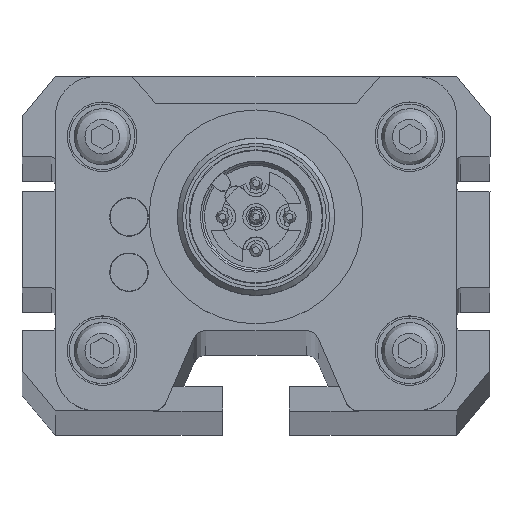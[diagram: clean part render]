
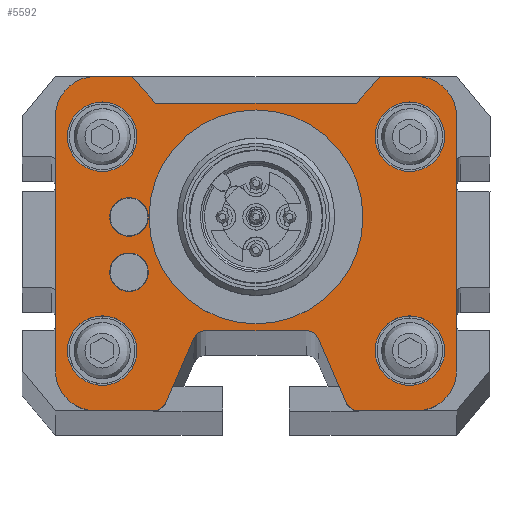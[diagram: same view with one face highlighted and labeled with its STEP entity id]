
A CAD part, top view. The second image highlights one B-rep face of the part: STEP entity #5592.
In plain terms, the highlighted planar face has unit normal (0, 0, 1).
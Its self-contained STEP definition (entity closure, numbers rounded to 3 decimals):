
#122=CARTESIAN_POINT('',(4.661,5.398,529.0));
#123=VERTEX_POINT('',#122);
#172=CARTESIAN_POINT('',(6.739,0.602,529.0));
#173=VERTEX_POINT('',#172);
#180=CARTESIAN_POINT('',(6.739,0.602,529.0));
#181=DIRECTION('',(-0.398,0.918,0.0));
#182=VECTOR('',#181,5.226);
#183=LINE('',#180,#182);
#184=EDGE_CURVE('',#173,#123,#183,.T.);
#321=CARTESIAN_POINT('',(12.,0.,529.0));
#322=VERTEX_POINT('',#321);
#329=CARTESIAN_POINT('',(7.657,0.,529.0));
#330=VERTEX_POINT('',#329);
#331=CARTESIAN_POINT('',(12.,0.,529.0));
#332=DIRECTION('',(-1.0,0.,0.0));
#333=VECTOR('',#332,4.343);
#334=LINE('',#331,#333);
#335=EDGE_CURVE('',#322,#330,#334,.T.);
#663=CARTESIAN_POINT('',(15.,22.,529.0));
#664=VERTEX_POINT('',#663);
#671=CARTESIAN_POINT('',(15.,3.,529.0));
#672=VERTEX_POINT('',#671);
#673=CARTESIAN_POINT('',(15.,22.,529.0));
#674=DIRECTION('',(0.0,-1.0,0.0));
#675=VECTOR('',#674,19.);
#676=LINE('',#673,#675);
#677=EDGE_CURVE('',#664,#672,#676,.T.);
#971=CARTESIAN_POINT('',(-12.,25.,529.0));
#972=VERTEX_POINT('',#971);
#979=CARTESIAN_POINT('',(-9.3,25.,529.0));
#980=VERTEX_POINT('',#979);
#981=CARTESIAN_POINT('',(-12.,25.,529.0));
#982=DIRECTION('',(1.0,0.0,0.0));
#983=VECTOR('',#982,2.7);
#984=LINE('',#981,#983);
#985=EDGE_CURVE('',#972,#980,#984,.T.);
#1003=CARTESIAN_POINT('',(9.3,25.,529.0));
#1004=VERTEX_POINT('',#1003);
#1011=CARTESIAN_POINT('',(12.,25.,529.0));
#1012=VERTEX_POINT('',#1011);
#1013=CARTESIAN_POINT('',(9.3,25.,529.0));
#1014=DIRECTION('',(1.0,0.0,0.0));
#1015=VECTOR('',#1014,2.7);
#1016=LINE('',#1013,#1015);
#1017=EDGE_CURVE('',#1004,#1012,#1016,.T.);
#1224=CARTESIAN_POINT('',(-15.,3.,529.0));
#1225=VERTEX_POINT('',#1224);
#1232=CARTESIAN_POINT('',(-15.,22.,529.0));
#1233=VERTEX_POINT('',#1232);
#1234=CARTESIAN_POINT('',(-15.,3.,529.0));
#1235=DIRECTION('',(0.0,1.0,0.0));
#1236=VECTOR('',#1235,19.);
#1237=LINE('',#1234,#1236);
#1238=EDGE_CURVE('',#1225,#1233,#1237,.T.);
#1573=CARTESIAN_POINT('',(-7.657,0.,529.0));
#1574=VERTEX_POINT('',#1573);
#1581=CARTESIAN_POINT('',(-12.,0.,529.0));
#1582=VERTEX_POINT('',#1581);
#1583=CARTESIAN_POINT('',(-7.657,0.,529.0));
#1584=DIRECTION('',(-1.0,0.0,0.0));
#1585=VECTOR('',#1584,4.343);
#1586=LINE('',#1583,#1585);
#1587=EDGE_CURVE('',#1574,#1582,#1586,.T.);
#1731=CARTESIAN_POINT('',(-4.661,5.398,529.0));
#1732=VERTEX_POINT('',#1731);
#1739=CARTESIAN_POINT('',(-6.739,0.602,529.0));
#1740=VERTEX_POINT('',#1739);
#1741=CARTESIAN_POINT('',(-4.661,5.398,529.0));
#1742=DIRECTION('',(-0.398,-0.918,0.0));
#1743=VECTOR('',#1742,5.226);
#1744=LINE('',#1741,#1743);
#1745=EDGE_CURVE('',#1732,#1740,#1744,.T.);
#1772=CARTESIAN_POINT('',(-3.743,6.,529.0));
#1773=VERTEX_POINT('',#1772);
#1780=CARTESIAN_POINT('',(-3.743,5.,529.0));
#1781=DIRECTION('',(0.0,0.0,1.0));
#1782=DIRECTION('',(0.0,1.0,0.0));
#1783=AXIS2_PLACEMENT_3D('',#1780,#1781,#1782);
#1784=CIRCLE('',#1783,1.0);
#1785=EDGE_CURVE('',#1773,#1732,#1784,.T.);
#1804=CARTESIAN_POINT('',(3.743,6.,529.0));
#1805=VERTEX_POINT('',#1804);
#1812=CARTESIAN_POINT('',(3.743,6.,529.0));
#1813=DIRECTION('',(-1.0,0.0,0.0));
#1814=VECTOR('',#1813,7.487);
#1815=LINE('',#1812,#1814);
#1816=EDGE_CURVE('',#1805,#1773,#1815,.T.);
#1835=CARTESIAN_POINT('',(3.743,5.,529.0));
#1836=DIRECTION('',(0.,0.,1.0));
#1837=DIRECTION('',(0.918,0.398,0.));
#1838=AXIS2_PLACEMENT_3D('',#1835,#1836,#1837);
#1839=CIRCLE('',#1838,1.0);
#1840=EDGE_CURVE('',#123,#1805,#1839,.T.);
#1878=CARTESIAN_POINT('',(-7.5,23.,529.0));
#1879=VERTEX_POINT('',#1878);
#1880=CARTESIAN_POINT('',(-9.3,25.,529.0));
#1881=DIRECTION('',(0.669,-0.743,0.0));
#1882=VECTOR('',#1881,2.691);
#1883=LINE('',#1880,#1882);
#1884=EDGE_CURVE('',#980,#1879,#1883,.T.);
#1909=CARTESIAN_POINT('',(7.5,23.,529.0));
#1910=VERTEX_POINT('',#1909);
#1911=CARTESIAN_POINT('',(-7.5,23.,529.0));
#1912=DIRECTION('',(1.0,0.0,0.0));
#1913=VECTOR('',#1912,15.);
#1914=LINE('',#1911,#1913);
#1915=EDGE_CURVE('',#1879,#1910,#1914,.T.);
#1938=CARTESIAN_POINT('',(7.5,23.,529.0));
#1939=DIRECTION('',(0.669,0.743,0.0));
#1940=VECTOR('',#1939,2.691);
#1941=LINE('',#1938,#1940);
#1942=EDGE_CURVE('',#1910,#1004,#1941,.T.);
#1961=CARTESIAN_POINT('',(12.,22.,529.0));
#1962=DIRECTION('',(0.0,0.0,-1.0));
#1963=DIRECTION('',(-1.0,0.0,0.0));
#1964=AXIS2_PLACEMENT_3D('',#1961,#1962,#1963);
#1965=CIRCLE('',#1964,3.);
#1966=EDGE_CURVE('',#1012,#664,#1965,.T.);
#1985=CARTESIAN_POINT('',(12.,3.,529.0));
#1986=DIRECTION('',(0.0,0.0,-1.0));
#1987=DIRECTION('',(0.0,1.0,0.0));
#1988=AXIS2_PLACEMENT_3D('',#1985,#1986,#1987);
#1989=CIRCLE('',#1988,3.);
#1990=EDGE_CURVE('',#672,#322,#1989,.T.);
#2002=CARTESIAN_POINT('',(7.657,1.,529.0));
#2003=DIRECTION('',(0.,0.,-1.0));
#2004=DIRECTION('',(0.918,0.398,0.));
#2005=AXIS2_PLACEMENT_3D('',#2002,#2003,#2004);
#2006=CIRCLE('',#2005,1.0);
#2007=EDGE_CURVE('',#330,#173,#2006,.T.);
#2020=CARTESIAN_POINT('',(-7.657,1.,529.0));
#2021=DIRECTION('',(0.0,0.0,-1.0));
#2022=DIRECTION('',(0.0,1.0,0.0));
#2023=AXIS2_PLACEMENT_3D('',#2020,#2021,#2022);
#2024=CIRCLE('',#2023,1.0);
#2025=EDGE_CURVE('',#1740,#1574,#2024,.T.);
#2045=CARTESIAN_POINT('',(-12.,3.,529.0));
#2046=DIRECTION('',(0.0,0.0,-1.0));
#2047=DIRECTION('',(1.0,0.0,0.0));
#2048=AXIS2_PLACEMENT_3D('',#2045,#2046,#2047);
#2049=CIRCLE('',#2048,3.);
#2050=EDGE_CURVE('',#1582,#1225,#2049,.T.);
#2069=CARTESIAN_POINT('',(-12.,22.,529.0));
#2070=DIRECTION('',(0.0,0.0,-1.0));
#2071=DIRECTION('',(0.0,-1.0,0.0));
#2072=AXIS2_PLACEMENT_3D('',#2069,#2070,#2071);
#2073=CIRCLE('',#2072,3.);
#2074=EDGE_CURVE('',#1233,#972,#2073,.T.);
#2085=CARTESIAN_POINT('',(-8.049,14.5,529.0));
#2086=VERTEX_POINT('',#2085);
#2087=CARTESIAN_POINT('',(-9.499,14.5,529.0));
#2088=DIRECTION('',(0.0,0.0,-1.0));
#2089=DIRECTION('',(-1.0,0.0,0.0));
#2090=AXIS2_PLACEMENT_3D('',#2087,#2088,#2089);
#2091=CIRCLE('',#2090,1.45);
#2092=EDGE_CURVE('',#2086,#2086,#2091,.T.);
#2113=CARTESIAN_POINT('',(-8.049,10.361,529.0));
#2114=VERTEX_POINT('',#2113);
#2115=CARTESIAN_POINT('',(-9.499,10.361,529.0));
#2116=DIRECTION('',(0.0,0.0,-1.0));
#2117=DIRECTION('',(-1.0,0.0,0.0));
#2118=AXIS2_PLACEMENT_3D('',#2115,#2116,#2117);
#2119=CIRCLE('',#2118,1.45);
#2120=EDGE_CURVE('',#2114,#2114,#2119,.T.);
#2141=CARTESIAN_POINT('',(-8.9,4.5,529.0));
#2142=VERTEX_POINT('',#2141);
#2143=CARTESIAN_POINT('',(-11.5,4.5,529.0));
#2144=DIRECTION('',(0.0,0.0,-1.0));
#2145=DIRECTION('',(-1.0,0.0,0.0));
#2146=AXIS2_PLACEMENT_3D('',#2143,#2144,#2145);
#2147=CIRCLE('',#2146,2.6);
#2148=EDGE_CURVE('',#2142,#2142,#2147,.T.);
#2169=CARTESIAN_POINT('',(14.1,4.5,529.0));
#2170=VERTEX_POINT('',#2169);
#2171=CARTESIAN_POINT('',(11.5,4.5,529.0));
#2172=DIRECTION('',(0.0,0.0,-1.0));
#2173=DIRECTION('',(-1.0,0.0,0.0));
#2174=AXIS2_PLACEMENT_3D('',#2171,#2172,#2173);
#2175=CIRCLE('',#2174,2.6);
#2176=EDGE_CURVE('',#2170,#2170,#2175,.T.);
#2197=CARTESIAN_POINT('',(14.1,20.5,529.0));
#2198=VERTEX_POINT('',#2197);
#2199=CARTESIAN_POINT('',(11.5,20.5,529.0));
#2200=DIRECTION('',(0.0,0.0,-1.0));
#2201=DIRECTION('',(-1.0,0.0,0.0));
#2202=AXIS2_PLACEMENT_3D('',#2199,#2200,#2201);
#2203=CIRCLE('',#2202,2.6);
#2204=EDGE_CURVE('',#2198,#2198,#2203,.T.);
#2225=CARTESIAN_POINT('',(-8.9,20.5,529.0));
#2226=VERTEX_POINT('',#2225);
#2227=CARTESIAN_POINT('',(-11.5,20.5,529.0));
#2228=DIRECTION('',(0.0,0.0,-1.0));
#2229=DIRECTION('',(-1.0,0.0,0.0));
#2230=AXIS2_PLACEMENT_3D('',#2227,#2228,#2229);
#2231=CIRCLE('',#2230,2.6);
#2232=EDGE_CURVE('',#2226,#2226,#2231,.T.);
#5536=CARTESIAN_POINT('',(0.,12.379,529.0));
#5537=DIRECTION('',(0.0,0.0,1.0));
#5538=DIRECTION('',(1.0,0.0,0.0));
#5539=AXIS2_PLACEMENT_3D('',#5536,#5537,#5538);
#5540=PLANE('',#5539);
#5541=ORIENTED_EDGE('',*,*,#1915,.F.);
#5542=ORIENTED_EDGE('',*,*,#1884,.F.);
#5543=ORIENTED_EDGE('',*,*,#985,.F.);
#5544=ORIENTED_EDGE('',*,*,#2074,.F.);
#5545=ORIENTED_EDGE('',*,*,#1238,.F.);
#5546=ORIENTED_EDGE('',*,*,#2050,.F.);
#5547=ORIENTED_EDGE('',*,*,#1587,.F.);
#5548=ORIENTED_EDGE('',*,*,#2025,.F.);
#5549=ORIENTED_EDGE('',*,*,#1745,.F.);
#5550=ORIENTED_EDGE('',*,*,#1785,.F.);
#5551=ORIENTED_EDGE('',*,*,#1816,.F.);
#5552=ORIENTED_EDGE('',*,*,#1840,.F.);
#5553=ORIENTED_EDGE('',*,*,#184,.F.);
#5554=ORIENTED_EDGE('',*,*,#2007,.F.);
#5555=ORIENTED_EDGE('',*,*,#335,.F.);
#5556=ORIENTED_EDGE('',*,*,#1990,.F.);
#5557=ORIENTED_EDGE('',*,*,#677,.F.);
#5558=ORIENTED_EDGE('',*,*,#1966,.F.);
#5559=ORIENTED_EDGE('',*,*,#1017,.F.);
#5560=ORIENTED_EDGE('',*,*,#1942,.F.);
#5561=EDGE_LOOP('',(#5541,#5542,#5543,#5544,#5545,#5546,#5547,#5548,#5549,#5550,#5551,#5552,#5553,#5554,#5555,#5556,#5557,#5558,#5559,#5560));
#5562=FACE_OUTER_BOUND('',#5561,.T.);
#5563=ORIENTED_EDGE('',*,*,#2092,.T.);
#5564=EDGE_LOOP('',(#5563));
#5565=FACE_BOUND('',#5564,.T.);
#5566=ORIENTED_EDGE('',*,*,#2120,.T.);
#5567=EDGE_LOOP('',(#5566));
#5568=FACE_BOUND('',#5567,.T.);
#5569=ORIENTED_EDGE('',*,*,#2148,.T.);
#5570=EDGE_LOOP('',(#5569));
#5571=FACE_BOUND('',#5570,.T.);
#5572=ORIENTED_EDGE('',*,*,#2176,.T.);
#5573=EDGE_LOOP('',(#5572));
#5574=FACE_BOUND('',#5573,.T.);
#5575=ORIENTED_EDGE('',*,*,#2204,.T.);
#5576=EDGE_LOOP('',(#5575));
#5577=FACE_BOUND('',#5576,.T.);
#5578=ORIENTED_EDGE('',*,*,#2232,.T.);
#5579=EDGE_LOOP('',(#5578));
#5580=FACE_BOUND('',#5579,.T.);
#5581=CARTESIAN_POINT('',(8.,14.5,529.0));
#5582=VERTEX_POINT('',#5581);
#5583=CARTESIAN_POINT('',(0.,14.5,529.0));
#5584=DIRECTION('',(0.0,0.0,-1.0));
#5585=DIRECTION('',(-1.0,0.0,0.0));
#5586=AXIS2_PLACEMENT_3D('',#5583,#5584,#5585);
#5587=CIRCLE('',#5586,8.0);
#5588=EDGE_CURVE('',#5582,#5582,#5587,.T.);
#5589=ORIENTED_EDGE('',*,*,#5588,.T.);
#5590=EDGE_LOOP('',(#5589));
#5591=FACE_BOUND('',#5590,.T.);
#5592=ADVANCED_FACE('',(#5562,#5565,#5568,#5571,#5574,#5577,#5580,#5591),#5540,.T.);
